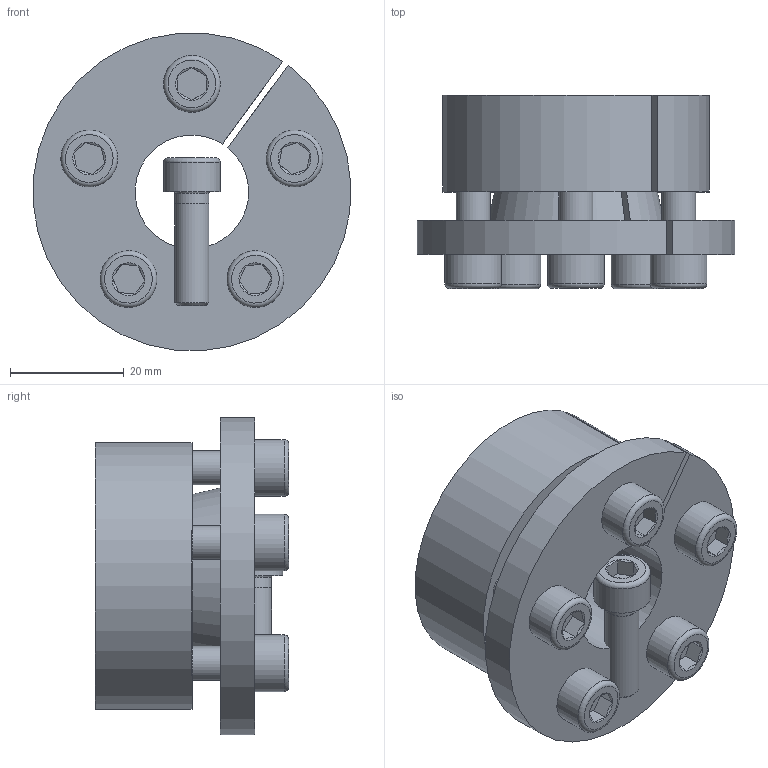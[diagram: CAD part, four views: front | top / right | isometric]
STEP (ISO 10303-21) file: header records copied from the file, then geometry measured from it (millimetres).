
FILE_DESCRIPTION( ( 'Unknown' ), '1' );
FILE_NAME( 'C:/Dokumente und Einstellungen/Sven/Desktop/homepage/cad - homepage/KBS16/KBS 16 - 20 x 47.stp', 'Unknown', ( 'Unknown' ), ( 'Unknown' ), 'XStep 1.0', 'Unknown', ' ' );
FILE_SCHEMA( ( 'automotive_design' ) );
Length unit declared in the file: millimetre
Products named in the file (3): Assem1; KBS 16 - 20 x 47; ISO EN DIN 4762 M6x20
Bounding box: 55.88 x 34 x 55.84 mm (x, y, z)
Volume: 76070 mm3; surface area: 33490.3 mm2
Topology: 8 solids, 8 shells, 194 faces, 388 edges, 234 vertices
Faces by surface type: plane 86, cylinder 50, cone 46, torus 12
Full cylindrical faces by diameter (mm): 5 x6, 6 x32, 10 x6
Entity records: 1552 total; most frequent: CARTESIAN_POINT 260, DIRECTION 230, ORIENTED_EDGE 170, AXIS2_PLACEMENT_3D 101, EDGE_LOOP 88, EDGE_CURVE 85, FACE_OUTER_BOUND 63, VERTEX_POINT 63
